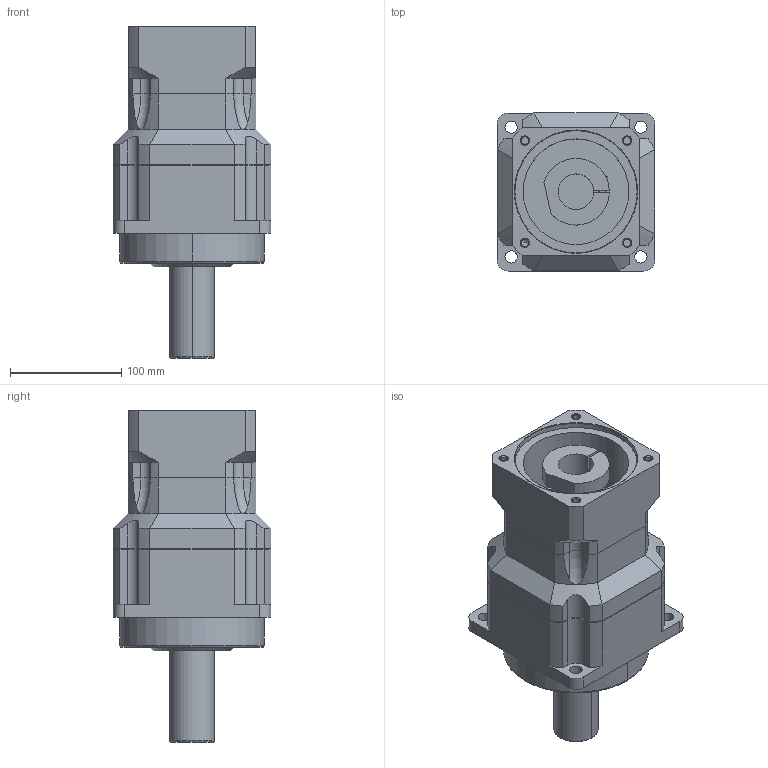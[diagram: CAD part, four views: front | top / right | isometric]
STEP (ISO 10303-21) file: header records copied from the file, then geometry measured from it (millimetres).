
FILE_DESCRIPTION((''),'2;1');
FILE_NAME('AF1402-P4040102_ASM','2005-09-13T',('jacky'),(''),'PRO/ENGINEER BY PARAMETRIC TECHNOLOGY CORPORATION, 2001280','PRO/ENGINEER BY PARAMETRIC TECHNOLOGY CORPORATION, 2001280','');
FILE_SCHEMA(('CONFIG_CONTROL_DESIGN'));
Length unit declared in the file: millimetre
Products named in the file (4): AF1402; AB1422-1; P4040102; AF1402-P4040102_ASM
Assembly tree (3 placements, depth 2):
  AF1402-P4040102_ASM
    AF1402
    AB1422-1
    P4040102
Bounding box: 142 x 142 x 298.5 mm (x, y, z)
Volume: 2883777.3 mm3; surface area: 233562.4 mm2
Topology: 3 solids, 8 shells, 255 faces, 637 edges, 402 vertices
Faces by surface type: cylinder 101, plane 98, cone 40, torus 12, bspline 4
Entity records: 8077 total; most frequent: CARTESIAN_POINT 1749, DIRECTION 1375, ORIENTED_EDGE 1244, EDGE_CURVE 633, AXIS2_PLACEMENT_3D 533, VERTEX_POINT 402, VECTOR 309, LINE 309
